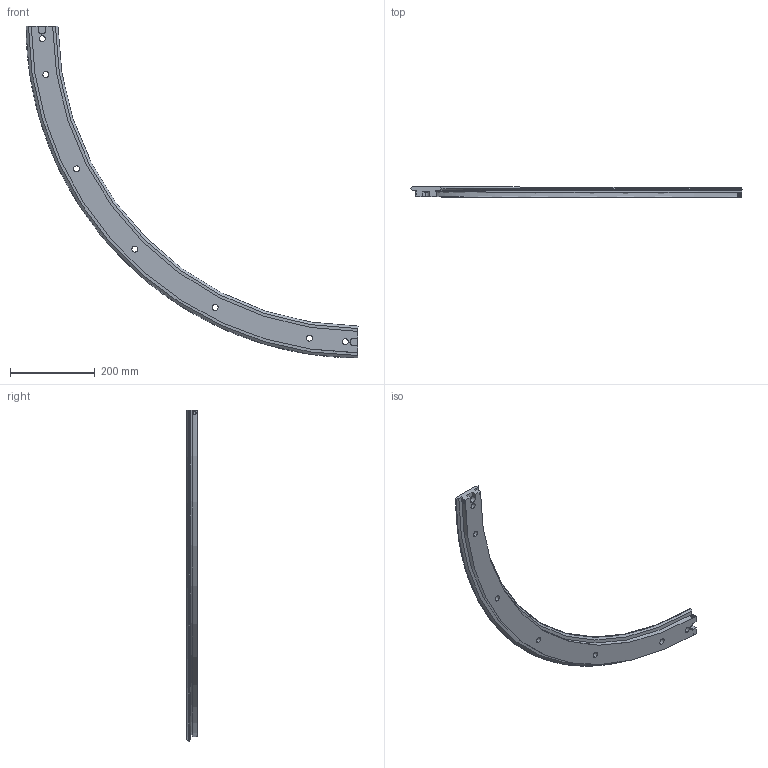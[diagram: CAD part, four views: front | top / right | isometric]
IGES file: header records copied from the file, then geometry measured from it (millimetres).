
Start section: 3D InterOp IGES (v. 2019 1.0.2), Spatial Corp. Copyright (c) 1999-2017.
Global section: file name: TR76 1501 R90.igs; native system: Spatial Corp.; preprocessor: 3D InterOp GENERIC/IGES 3.0; author: Noname; organization: Noname; date: 20220628.092407; units: millimetre
Bounding box: 785.8 x 24 x 785.8 mm (x, y, z)
Surface area: 248856.7 mm2 (no closed solid volume)
Topology: 0 solids, 0 shells, 103 faces, 516 edges, 516 vertices
Faces by surface type: extrusion 53, revolution 50
